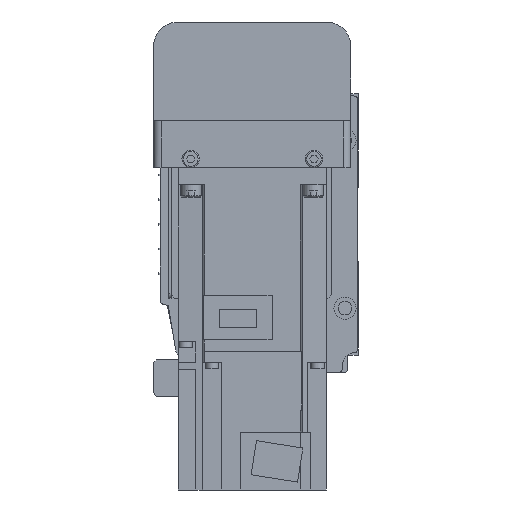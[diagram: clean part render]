
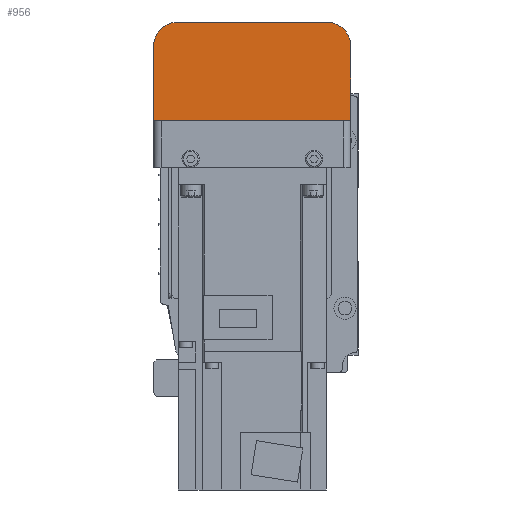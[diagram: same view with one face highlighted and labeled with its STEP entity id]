
A CAD part, left-side view. The second image highlights one B-rep face of the part: STEP entity #956.
In plain terms, the highlighted planar face has unit normal (-1, 0, 0).
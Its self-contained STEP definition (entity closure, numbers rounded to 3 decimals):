
#956 = ADVANCED_FACE( '', ( #2480 ), #2481, .F. );
#2480 = FACE_OUTER_BOUND( '', #4776, .T. );
#2481 = PLANE( '', #4777 );
#4776 = EDGE_LOOP( '', ( #7338, #7339, #7340, #7341, #7342, #7343 ) );
#4777 = AXIS2_PLACEMENT_3D( '', #7344, #7345, #7346 );
#7338 = ORIENTED_EDGE( '', *, *, #13439, .F. );
#7339 = ORIENTED_EDGE( '', *, *, #13440, .F. );
#7340 = ORIENTED_EDGE( '', *, *, #13441, .F. );
#7341 = ORIENTED_EDGE( '', *, *, #13312, .F. );
#7342 = ORIENTED_EDGE( '', *, *, #13442, .F. );
#7343 = ORIENTED_EDGE( '', *, *, #13349, .F. );
#7344 = CARTESIAN_POINT( '', ( -192., 37., 7. ) );
#7345 = DIRECTION( '', ( 1., 0., 0. ) );
#7346 = DIRECTION( '', ( 0., 0., -1. ) );
#13312 = EDGE_CURVE( '', #15869, #15871, #15872, .T. );
#13349 = EDGE_CURVE( '', #15613, #15935, #15936, .T. );
#13439 = EDGE_CURVE( '', #16091, #15613, #16092, .T. );
#13440 = EDGE_CURVE( '', #16093, #16091, #16094, .T. );
#13441 = EDGE_CURVE( '', #15871, #16093, #16095, .T. );
#13442 = EDGE_CURVE( '', #15935, #15869, #16096, .T. );
#15613 = VERTEX_POINT( '', #19222 );
#15869 = VERTEX_POINT( '', #19553 );
#15871 = VERTEX_POINT( '', #19556 );
#15872 = LINE( '', #19557, #19558 );
#15935 = VERTEX_POINT( '', #19641 );
#15936 = LINE( '', #19642, #19643 );
#16091 = VERTEX_POINT( '', #19844 );
#16092 = LINE( '', #19845, #19846 );
#16093 = VERTEX_POINT( '', #19847 );
#16094 = LINE( '', #19848, #19849 );
#16095 = CIRCLE( '', #19850, 10. );
#16096 = CIRCLE( '', #19851, 10. );
#19222 = CARTESIAN_POINT( '', ( -192., -40., -12.1 ) );
#19553 = CARTESIAN_POINT( '', ( -192., -30., -52. ) );
#19556 = CARTESIAN_POINT( '', ( -192., 30., -52. ) );
#19557 = CARTESIAN_POINT( '', ( -192., -30., -52. ) );
#19558 = VECTOR( '', #24221, 1000. );
#19641 = CARTESIAN_POINT( '', ( -192., -40., -42. ) );
#19642 = CARTESIAN_POINT( '', ( -192., -40., -12.1 ) );
#19643 = VECTOR( '', #24269, 1000. );
#19844 = CARTESIAN_POINT( '', ( -192., 40., -12.1 ) );
#19845 = CARTESIAN_POINT( '', ( -192., 50., -12.1 ) );
#19846 = VECTOR( '', #24391, 1000. );
#19847 = CARTESIAN_POINT( '', ( -192., 40., -42. ) );
#19848 = CARTESIAN_POINT( '', ( -192., 40., -42. ) );
#19849 = VECTOR( '', #24392, 1000. );
#19850 = AXIS2_PLACEMENT_3D( '', #24393, #24394, #24395 );
#19851 = AXIS2_PLACEMENT_3D( '', #24396, #24397, #24398 );
#24221 = DIRECTION( '', ( 0., 1., 0. ) );
#24269 = DIRECTION( '', ( 0., 0., -1. ) );
#24391 = DIRECTION( '', ( 0., -1., 0. ) );
#24392 = DIRECTION( '', ( 0., 0., 1. ) );
#24393 = CARTESIAN_POINT( '', ( -192., 30., -42. ) );
#24394 = DIRECTION( '', ( 1., 0., 0. ) );
#24395 = DIRECTION( '', ( 0., 0., -1. ) );
#24396 = CARTESIAN_POINT( '', ( -192., -30., -42. ) );
#24397 = DIRECTION( '', ( 1., 0., 0. ) );
#24398 = DIRECTION( '', ( 0., 0., -1. ) );
